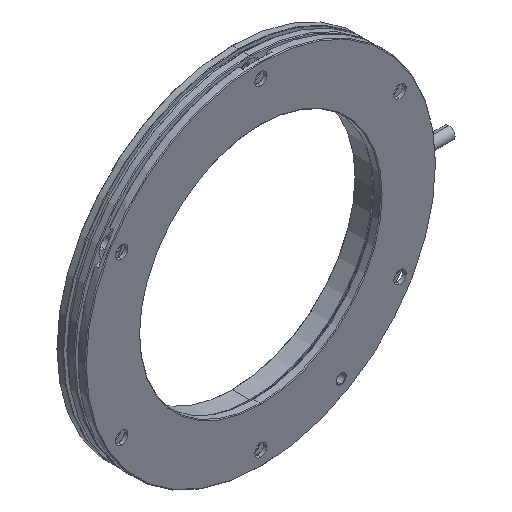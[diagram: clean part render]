
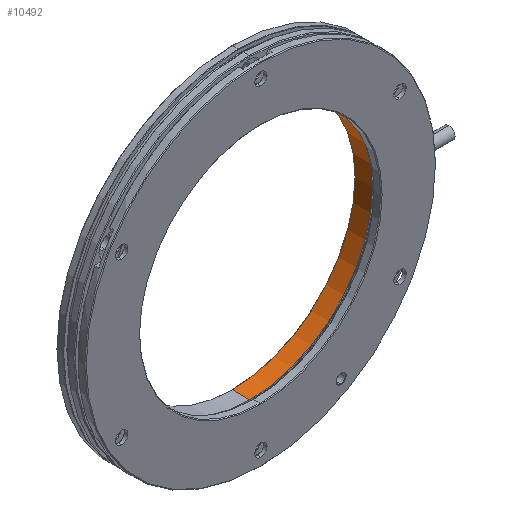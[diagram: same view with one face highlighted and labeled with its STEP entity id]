
A CAD part, isometric view. The second image highlights one B-rep face of the part: STEP entity #10492.
In plain terms, the highlighted cylindrical face has radius 33.6 mm (diameter 67.2 mm), a partial arc.
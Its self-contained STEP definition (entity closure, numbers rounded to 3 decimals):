
#481 = ORIENTED_EDGE ( 'NONE', *, *, #7572, .T. ) ;
#747 = EDGE_LOOP ( 'NONE', ( #481, #6496, #11132, #7776 ) ) ;
#959 = VERTEX_POINT ( 'NONE', #3677 ) ;
#1120 = VECTOR ( 'NONE', #14280, 1000. ) ;
#1372 = EDGE_CURVE ( 'NONE', #5014, #10349, #1556, .T. ) ;
#1556 = LINE ( 'NONE', #5572, #6279 ) ;
#1816 = CARTESIAN_POINT ( 'NONE',  ( 0., 3., 0. ) ) ;
#1897 = CIRCLE ( 'NONE', #13253, 33.6 ) ;
#2778 = DIRECTION ( 'NONE',  ( 0., 0., 1. ) ) ;
#2892 = AXIS2_PLACEMENT_3D ( 'NONE', #12894, #14213, #2778 ) ;
#3369 = CARTESIAN_POINT ( 'NONE',  ( 0., 3., 33.6 ) ) ;
#3677 = CARTESIAN_POINT ( 'NONE',  ( 0., 3., -33.6 ) ) ;
#3856 = DIRECTION ( 'NONE',  ( 0., 0., 1. ) ) ;
#4725 = CARTESIAN_POINT ( 'NONE',  ( 0., 7.8, 33.6 ) ) ;
#5014 = VERTEX_POINT ( 'NONE', #3369 ) ;
#5572 = CARTESIAN_POINT ( 'NONE',  ( 0., 3., 33.6 ) ) ;
#6279 = VECTOR ( 'NONE', #10644, 1000. ) ;
#6299 = EDGE_CURVE ( 'NONE', #959, #12921, #14033, .T. ) ;
#6496 = ORIENTED_EDGE ( 'NONE', *, *, #1372, .T. ) ;
#6724 = DIRECTION ( 'NONE',  ( 0., 1., 0. ) ) ;
#7572 = EDGE_CURVE ( 'NONE', #959, #5014, #7641, .T. ) ;
#7641 = CIRCLE ( 'NONE', #2892, 33.6 ) ;
#7776 = ORIENTED_EDGE ( 'NONE', *, *, #6299, .F. ) ;
#7995 = CYLINDRICAL_SURFACE ( 'NONE', #12967, 33.6 ) ;
#8119 = EDGE_CURVE ( 'NONE', #10349, #12921, #1897, .T. ) ;
#9463 = FACE_OUTER_BOUND ( 'NONE', #747, .T. ) ;
#10349 = VERTEX_POINT ( 'NONE', #4725 ) ;
#10492 = ADVANCED_FACE ( 'NONE', ( #9463 ), #7995, .F. ) ;
#10644 = DIRECTION ( 'NONE',  ( 0., 1., 0. ) ) ;
#10798 = DIRECTION ( 'NONE',  ( 0., 0., -1. ) ) ;
#11132 = ORIENTED_EDGE ( 'NONE', *, *, #8119, .T. ) ;
#12561 = CARTESIAN_POINT ( 'NONE',  ( 0., 7.8, -33.6 ) ) ;
#12667 = CARTESIAN_POINT ( 'NONE',  ( 0., 7.8, 0. ) ) ;
#12894 = CARTESIAN_POINT ( 'NONE',  ( 0., 3., 0. ) ) ;
#12921 = VERTEX_POINT ( 'NONE', #12561 ) ;
#12967 = AXIS2_PLACEMENT_3D ( 'NONE', #1816, #6724, #10798 ) ;
#13253 = AXIS2_PLACEMENT_3D ( 'NONE', #12667, #15219, #3856 ) ;
#14033 = LINE ( 'NONE', #15419, #1120 ) ;
#14213 = DIRECTION ( 'NONE',  ( 0., -1., 0. ) ) ;
#14280 = DIRECTION ( 'NONE',  ( 0., 1., 0. ) ) ;
#15219 = DIRECTION ( 'NONE',  ( 0., 1., 0. ) ) ;
#15419 = CARTESIAN_POINT ( 'NONE',  ( 0., 3., -33.6 ) ) ;
